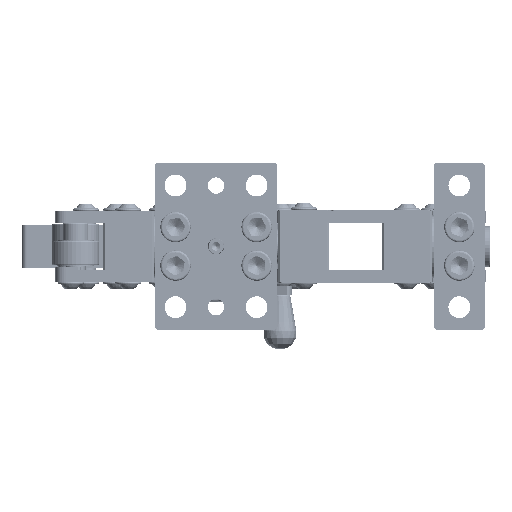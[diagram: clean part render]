
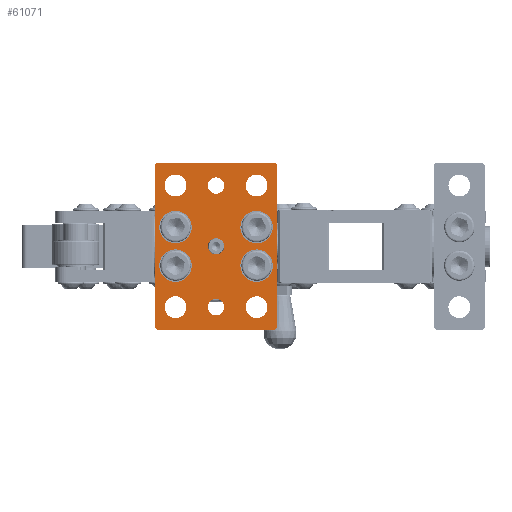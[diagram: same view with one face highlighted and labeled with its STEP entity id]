
A CAD part, left-side view. The second image highlights one B-rep face of the part: STEP entity #61071.
In plain terms, the highlighted planar face has unit normal (-1, 0, 0) as drawn and (0, 0, -1) by its records, which use the part's own axes.
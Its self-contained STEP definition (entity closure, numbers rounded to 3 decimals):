
#4354=FACE_BOUND('',#13299,.T.);
#4355=FACE_BOUND('',#13300,.T.);
#4356=FACE_BOUND('',#13301,.T.);
#4357=FACE_BOUND('',#13302,.T.);
#4358=FACE_BOUND('',#13303,.T.);
#4359=FACE_BOUND('',#13304,.T.);
#4360=FACE_BOUND('',#13305,.T.);
#4361=FACE_BOUND('',#13306,.T.);
#4362=FACE_BOUND('',#13307,.T.);
#4363=FACE_BOUND('',#13308,.T.);
#4364=FACE_BOUND('',#13309,.T.);
#6296=PLANE('',#64444);
#9341=FACE_OUTER_BOUND('',#13298,.T.);
#13298=EDGE_LOOP('',(#55249,#55250,#55251,#55252,#55253,#55254,#55255,#55256));
#13299=EDGE_LOOP('',(#55257));
#13300=EDGE_LOOP('',(#55258));
#13301=EDGE_LOOP('',(#55259));
#13302=EDGE_LOOP('',(#55260));
#13303=EDGE_LOOP('',(#55261));
#13304=EDGE_LOOP('',(#55262));
#13305=EDGE_LOOP('',(#55263));
#13306=EDGE_LOOP('',(#55264));
#13307=EDGE_LOOP('',(#55265));
#13308=EDGE_LOOP('',(#55266));
#13309=EDGE_LOOP('',(#55267));
#19225=LINE('',#104083,#25099);
#19232=LINE('',#104095,#25106);
#19238=LINE('',#104107,#25112);
#19240=LINE('',#104111,#25114);
#19242=LINE('',#104117,#25116);
#19244=LINE('',#104121,#25118);
#19249=LINE('',#104129,#25123);
#19252=LINE('',#104180,#25126);
#25099=VECTOR('',#75535,2.828);
#25106=VECTOR('',#75544,161.);
#25112=VECTOR('',#75554,2.828);
#25114=VECTOR('',#75558,116.);
#25116=VECTOR('',#75564,2.828);
#25118=VECTOR('',#75568,161.);
#25123=VECTOR('',#75575,2.828);
#25126=VECTOR('',#75642,116.);
#26406=CIRCLE('',#64370,8.05);
#26409=CIRCLE('',#64374,8.05);
#26410=CIRCLE('',#64376,8.05);
#26413=CIRCLE('',#64382,10.75);
#26417=CIRCLE('',#64389,10.75);
#26421=CIRCLE('',#64396,10.75);
#26424=CIRCLE('',#64402,10.75);
#26431=CIRCLE('',#64423,16.);
#26434=CIRCLE('',#64429,16.);
#26437=CIRCLE('',#64435,16.);
#26440=CIRCLE('',#64441,16.);
#31418=VERTEX_POINT('',#104024);
#31421=VERTEX_POINT('',#104031);
#31422=VERTEX_POINT('',#104034);
#31425=VERTEX_POINT('',#104043);
#31429=VERTEX_POINT('',#104054);
#31433=VERTEX_POINT('',#104065);
#31436=VERTEX_POINT('',#104074);
#31439=VERTEX_POINT('',#104080);
#31440=VERTEX_POINT('',#104082);
#31444=VERTEX_POINT('',#104093);
#31448=VERTEX_POINT('',#104105);
#31449=VERTEX_POINT('',#104109);
#31450=VERTEX_POINT('',#104114);
#31451=VERTEX_POINT('',#104116);
#31452=VERTEX_POINT('',#104120);
#31461=VERTEX_POINT('',#104149);
#31464=VERTEX_POINT('',#104158);
#31467=VERTEX_POINT('',#104167);
#31470=VERTEX_POINT('',#104176);
#39517=EDGE_CURVE('',#31418,#31418,#26406,.T.);
#39520=EDGE_CURVE('',#31421,#31421,#26409,.T.);
#39521=EDGE_CURVE('',#31422,#31422,#26410,.T.);
#39524=EDGE_CURVE('',#31425,#31425,#26413,.T.);
#39528=EDGE_CURVE('',#31429,#31429,#26417,.T.);
#39532=EDGE_CURVE('',#31433,#31433,#26421,.T.);
#39535=EDGE_CURVE('',#31436,#31436,#26424,.T.);
#39538=EDGE_CURVE('',#31439,#31440,#19225,.T.);
#39545=EDGE_CURVE('',#31439,#31444,#19232,.T.);
#39551=EDGE_CURVE('',#31448,#31444,#19238,.T.);
#39553=EDGE_CURVE('',#31448,#31449,#19240,.T.);
#39555=EDGE_CURVE('',#31450,#31451,#19242,.T.);
#39557=EDGE_CURVE('',#31452,#31451,#19244,.T.);
#39562=EDGE_CURVE('',#31452,#31449,#19249,.T.);
#39571=EDGE_CURVE('',#31461,#31461,#26431,.T.);
#39574=EDGE_CURVE('',#31464,#31464,#26434,.T.);
#39577=EDGE_CURVE('',#31467,#31467,#26437,.T.);
#39580=EDGE_CURVE('',#31470,#31470,#26440,.T.);
#39581=EDGE_CURVE('',#31450,#31440,#19252,.T.);
#55249=ORIENTED_EDGE('',*,*,#39538,.F.);
#55250=ORIENTED_EDGE('',*,*,#39545,.T.);
#55251=ORIENTED_EDGE('',*,*,#39551,.F.);
#55252=ORIENTED_EDGE('',*,*,#39553,.T.);
#55253=ORIENTED_EDGE('',*,*,#39562,.F.);
#55254=ORIENTED_EDGE('',*,*,#39557,.T.);
#55255=ORIENTED_EDGE('',*,*,#39555,.F.);
#55256=ORIENTED_EDGE('',*,*,#39581,.T.);
#55257=ORIENTED_EDGE('',*,*,#39517,.T.);
#55258=ORIENTED_EDGE('',*,*,#39520,.T.);
#55259=ORIENTED_EDGE('',*,*,#39521,.T.);
#55260=ORIENTED_EDGE('',*,*,#39524,.T.);
#55261=ORIENTED_EDGE('',*,*,#39528,.T.);
#55262=ORIENTED_EDGE('',*,*,#39532,.T.);
#55263=ORIENTED_EDGE('',*,*,#39535,.T.);
#55264=ORIENTED_EDGE('',*,*,#39571,.T.);
#55265=ORIENTED_EDGE('',*,*,#39574,.T.);
#55266=ORIENTED_EDGE('',*,*,#39577,.T.);
#55267=ORIENTED_EDGE('',*,*,#39580,.T.);
#61071=ADVANCED_FACE('',(#9341,#4354,#4355,#4356,#4357,#4358,#4359,#4360,
#4361,#4362,#4363,#4364),#6296,.F.);
#64370=AXIS2_PLACEMENT_3D('',#104025,#75465,#75466);
#64374=AXIS2_PLACEMENT_3D('',#104032,#75473,#75474);
#64376=AXIS2_PLACEMENT_3D('',#104035,#75477,#75478);
#64382=AXIS2_PLACEMENT_3D('',#104044,#75489,#75490);
#64389=AXIS2_PLACEMENT_3D('',#104055,#75503,#75504);
#64396=AXIS2_PLACEMENT_3D('',#104066,#75517,#75518);
#64402=AXIS2_PLACEMENT_3D('',#104075,#75529,#75530);
#64423=AXIS2_PLACEMENT_3D('',#104150,#75600,#75601);
#64429=AXIS2_PLACEMENT_3D('',#104159,#75612,#75613);
#64435=AXIS2_PLACEMENT_3D('',#104168,#75624,#75625);
#64441=AXIS2_PLACEMENT_3D('',#104177,#75636,#75637);
#64444=AXIS2_PLACEMENT_3D('',#104181,#75643,#75644);
#75465=DIRECTION('center_axis',(0.,0.,1.));
#75466=DIRECTION('ref_axis',(1.,0.,0.));
#75473=DIRECTION('center_axis',(0.,0.,1.));
#75474=DIRECTION('ref_axis',(1.,0.,0.));
#75477=DIRECTION('center_axis',(0.,0.,1.));
#75478=DIRECTION('ref_axis',(1.,0.,0.));
#75489=DIRECTION('center_axis',(0.,0.,1.));
#75490=DIRECTION('ref_axis',(1.,0.,0.));
#75503=DIRECTION('center_axis',(0.,0.,1.));
#75504=DIRECTION('ref_axis',(1.,0.,0.));
#75517=DIRECTION('center_axis',(0.,0.,1.));
#75518=DIRECTION('ref_axis',(1.,0.,0.));
#75529=DIRECTION('center_axis',(0.,0.,1.));
#75530=DIRECTION('ref_axis',(1.,0.,0.));
#75535=DIRECTION('',(-0.707,-0.707,0.));
#75544=DIRECTION('',(1.,0.,0.));
#75554=DIRECTION('',(-0.707,0.707,0.));
#75558=DIRECTION('',(0.,-1.,0.));
#75564=DIRECTION('',(0.707,-0.707,0.));
#75568=DIRECTION('',(-1.,0.,0.));
#75575=DIRECTION('',(0.707,0.707,0.));
#75600=DIRECTION('center_axis',(0.,0.,1.));
#75601=DIRECTION('ref_axis',(-1.,0.,0.));
#75612=DIRECTION('center_axis',(0.,0.,1.));
#75613=DIRECTION('ref_axis',(-1.,0.,0.));
#75624=DIRECTION('center_axis',(0.,0.,1.));
#75625=DIRECTION('ref_axis',(-1.,0.,0.));
#75636=DIRECTION('center_axis',(0.,0.,1.));
#75637=DIRECTION('ref_axis',(-1.,0.,0.));
#75642=DIRECTION('',(0.,1.,0.));
#75643=DIRECTION('center_axis',(0.,0.,1.));
#75644=DIRECTION('ref_axis',(1.,0.,0.));
#104024=CARTESIAN_POINT('',(-8.05,0.,0.));
#104025=CARTESIAN_POINT('Origin',(0.,0.,0.));
#104031=CARTESIAN_POINT('',(-51.95,0.,0.));
#104032=CARTESIAN_POINT('Origin',(-60.,0.,0.));
#104034=CARTESIAN_POINT('',(68.05,0.,0.));
#104035=CARTESIAN_POINT('Origin',(60.,0.,0.));
#104043=CARTESIAN_POINT('',(70.75,-40.,0.));
#104044=CARTESIAN_POINT('Origin',(60.,-40.,0.));
#104054=CARTESIAN_POINT('',(-49.25,40.,0.));
#104055=CARTESIAN_POINT('Origin',(-60.,40.,0.));
#104065=CARTESIAN_POINT('',(-49.25,-40.,0.));
#104066=CARTESIAN_POINT('Origin',(-60.,-40.,0.));
#104074=CARTESIAN_POINT('',(70.75,40.,0.));
#104075=CARTESIAN_POINT('Origin',(60.,40.,0.));
#104080=CARTESIAN_POINT('',(-80.5,60.,0.));
#104082=CARTESIAN_POINT('',(-82.5,58.,0.));
#104083=CARTESIAN_POINT('',(-75.875,64.625,0.));
#104093=CARTESIAN_POINT('',(80.5,60.,0.));
#104095=CARTESIAN_POINT('',(-82.5,60.,0.));
#104105=CARTESIAN_POINT('',(82.5,58.,0.));
#104107=CARTESIAN_POINT('',(75.875,64.625,0.));
#104109=CARTESIAN_POINT('',(82.5,-58.,0.));
#104111=CARTESIAN_POINT('',(82.5,60.,0.));
#104114=CARTESIAN_POINT('',(-82.5,-58.,0.));
#104116=CARTESIAN_POINT('',(-80.5,-60.,0.));
#104117=CARTESIAN_POINT('',(-75.875,-64.625,0.));
#104120=CARTESIAN_POINT('',(80.5,-60.,0.));
#104121=CARTESIAN_POINT('',(82.5,-60.,0.));
#104129=CARTESIAN_POINT('',(75.875,-64.625,0.));
#104149=CARTESIAN_POINT('',(-35.,-40.,0.));
#104150=CARTESIAN_POINT('Origin',(-19.,-40.,0.));
#104158=CARTESIAN_POINT('',(3.,40.,0.));
#104159=CARTESIAN_POINT('Origin',(19.,40.,0.));
#104167=CARTESIAN_POINT('',(3.,-40.,0.));
#104168=CARTESIAN_POINT('Origin',(19.,-40.,0.));
#104176=CARTESIAN_POINT('',(-35.,40.,0.));
#104177=CARTESIAN_POINT('Origin',(-19.,40.,0.));
#104180=CARTESIAN_POINT('',(-82.5,-60.,0.));
#104181=CARTESIAN_POINT('Origin',(0.,0.,0.));
